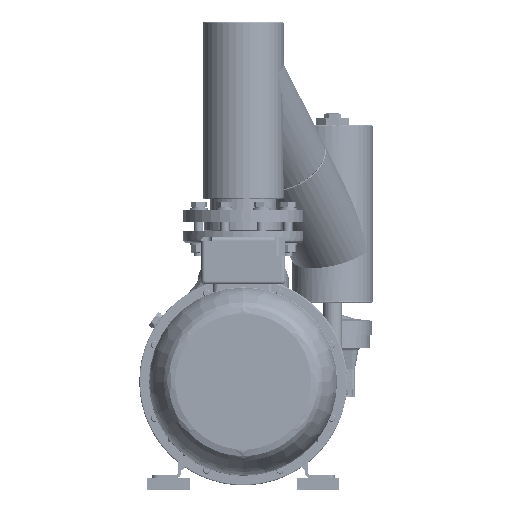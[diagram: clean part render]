
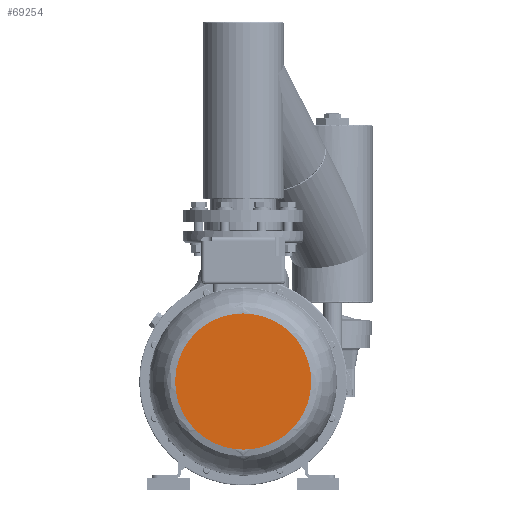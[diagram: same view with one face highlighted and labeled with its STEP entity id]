
A CAD part, front view. The second image highlights one B-rep face of the part: STEP entity #69254.
In plain terms, the highlighted planar face has unit normal (0, -1, 0).
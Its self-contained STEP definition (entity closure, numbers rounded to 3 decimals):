
#5001 = CARTESIAN_POINT ( 'NONE',  ( -155.205, -981.217, -87.932 ) ) ;
#5002 = CARTESIAN_POINT ( 'NONE',  ( 70.66, -981.217, -87.932 ) ) ;
#5003 = CARTESIAN_POINT ( 'NONE',  ( 70.66, -981.217, 137.932 ) ) ;
#5004 = CARTESIAN_POINT ( 'NONE',  ( -155.205, -981.217, 137.932 ) ) ;
#5005 =( BOUNDED_CURVE ( )  B_SPLINE_CURVE ( 3, ( #5004, #5003, #5002, #5001 ),
 .UNSPECIFIED., .F., .T. ) 
 B_SPLINE_CURVE_WITH_KNOTS ( ( 4, 4 ),
 ( 0., 1. ),
 .UNSPECIFIED. ) 
 CURVE ( )  GEOMETRIC_REPRESENTATION_ITEM ( )  RATIONAL_B_SPLINE_CURVE ( ( 1., 0.333, 0.333, 1. ) ) 
 REPRESENTATION_ITEM ( '' )  );
#5102 = AXIS2_PLACEMENT_3D ( 'NONE', #5109, #5106, #5104 ) ;
#5104 = DIRECTION ( 'NONE',  ( 1., 0., 0. ) ) ;
#5106 = DIRECTION ( 'NONE',  ( 0., -1., 0. ) ) ;
#5109 = CARTESIAN_POINT ( 'NONE',  ( -155.205, -981.217, 25. ) ) ;
#5112 = FACE_OUTER_BOUND ( 'NONE', #69120, .T. ) ;
#5113 = PLANE ( 'NONE',  #5102 ) ;
#69120 = EDGE_LOOP ( 'NONE', ( #69236, #69268 ) ) ;
#69209 = EDGE_CURVE ( 'NONE', #146157, #146311, #5005, .T. ) ;
#69236 = ORIENTED_EDGE ( 'NONE', *, *, #146320, .F. ) ;
#69254 = ADVANCED_FACE ( 'NONE', ( #5112 ), #5113, .T. ) ;
#69268 = ORIENTED_EDGE ( 'NONE', *, *, #69209, .F. ) ;
#93713 = CARTESIAN_POINT ( 'NONE',  ( -155.205, -981.217, 137.932 ) ) ;
#94808 = CARTESIAN_POINT ( 'NONE',  ( -155.205, -981.217, -87.932 ) ) ;
#94835 =( BOUNDED_CURVE ( )  B_SPLINE_CURVE ( 3, ( #94950, #94948, #94946, #94944 ),
 .UNSPECIFIED., .F., .T. ) 
 B_SPLINE_CURVE_WITH_KNOTS ( ( 4, 4 ),
 ( 0., 1. ),
 .UNSPECIFIED. ) 
 CURVE ( )  GEOMETRIC_REPRESENTATION_ITEM ( )  RATIONAL_B_SPLINE_CURVE ( ( 1., 0.333, 0.333, 1. ) ) 
 REPRESENTATION_ITEM ( '' )  );
#94944 = CARTESIAN_POINT ( 'NONE',  ( -155.205, -981.217, 137.932 ) ) ;
#94946 = CARTESIAN_POINT ( 'NONE',  ( -381.07, -981.217, 137.932 ) ) ;
#94948 = CARTESIAN_POINT ( 'NONE',  ( -381.07, -981.217, -87.932 ) ) ;
#94950 = CARTESIAN_POINT ( 'NONE',  ( -155.205, -981.217, -87.932 ) ) ;
#146157 = VERTEX_POINT ( 'NONE', #93713 ) ;
#146311 = VERTEX_POINT ( 'NONE', #94808 ) ;
#146320 = EDGE_CURVE ( 'NONE', #146311, #146157, #94835, .T. ) ;
